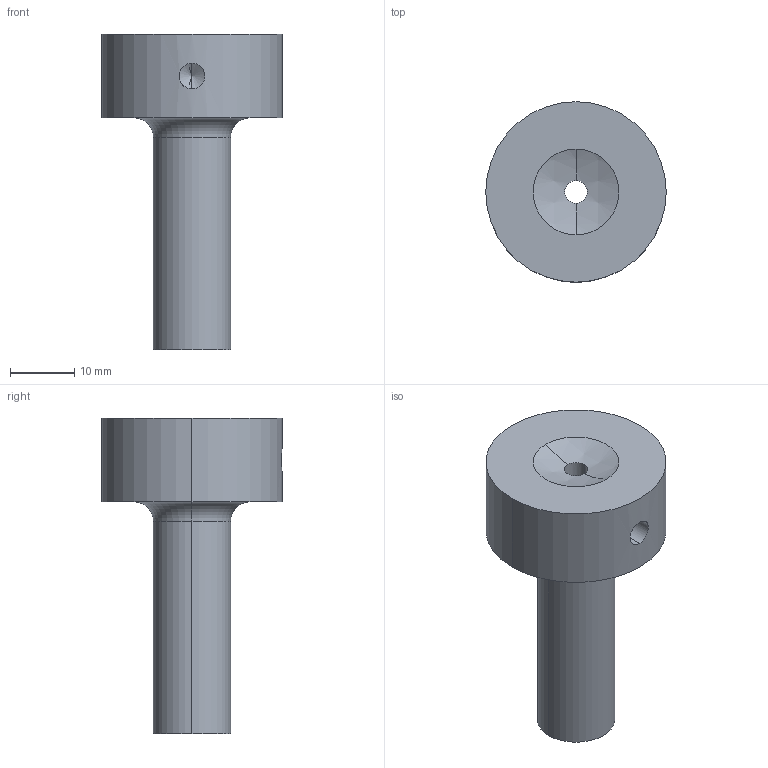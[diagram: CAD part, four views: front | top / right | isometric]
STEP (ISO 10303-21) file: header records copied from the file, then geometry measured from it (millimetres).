
FILE_DESCRIPTION (( 'STEP AP214' ), '1' );
FILE_NAME ('IMC-I1-12x36-3,5-1.STEP', '2023-01-11T07:45:52', ( '' ), ( '' ), 'SwSTEP 2.0', 'SolidWorks 2019', '' );
FILE_SCHEMA (( 'AUTOMOTIVE_DESIGN' ));
Length unit declared in the file: millimetre
Products named in the file (1): IMC-I1-12x36-3,5-1
Bounding box: 28 x 28 x 49 mm (x, y, z)
Volume: 11165.5 mm3; surface area: 4472.6 mm2
Topology: 1 solids, 1 shells, 21 faces, 50 edges, 29 vertices
Faces by surface type: cylinder 8, cone 6, plane 3, sphere 2, torus 2
Entity records: 678 total; most frequent: CARTESIAN_POINT 151, DIRECTION 118, ORIENTED_EDGE 92, AXIS2_PLACEMENT_3D 52, EDGE_CURVE 46, CIRCLE 30, VERTEX_POINT 29, EDGE_LOOP 25
